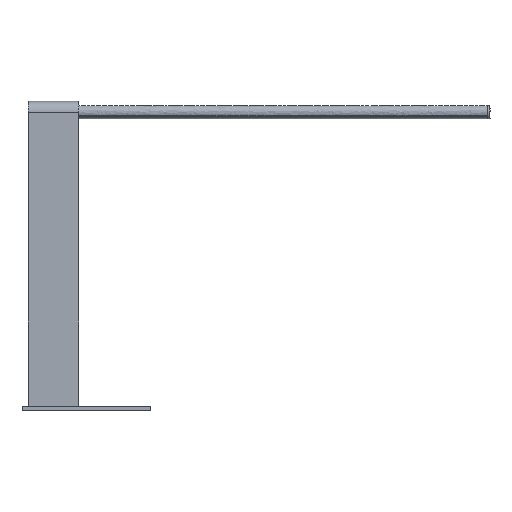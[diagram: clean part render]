
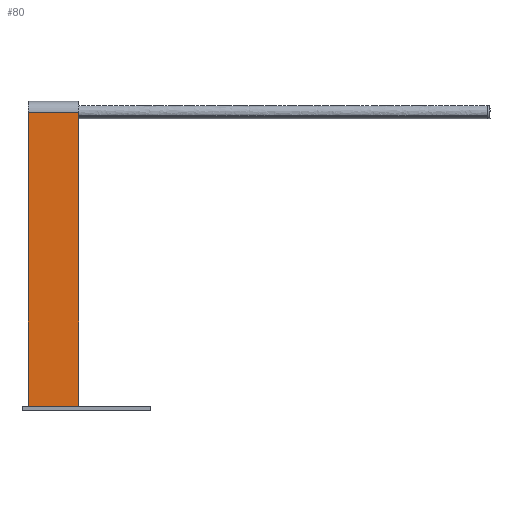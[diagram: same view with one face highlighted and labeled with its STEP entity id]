
A CAD part, front view. The second image highlights one B-rep face of the part: STEP entity #80.
In plain terms, the highlighted planar face has unit normal (0, -1, 0).
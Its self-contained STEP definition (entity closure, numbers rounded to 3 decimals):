
#14=(
BOUNDED_CURVE()
B_SPLINE_CURVE(1,(#593,#594),.UNSPECIFIED.,.F.,.F.)
B_SPLINE_CURVE_WITH_KNOTS((2,2),(0.,70.),.UNSPECIFIED.)
CURVE()
GEOMETRIC_REPRESENTATION_ITEM()
RATIONAL_B_SPLINE_CURVE((1.,1.))
REPRESENTATION_ITEM('')
);
#17=(
BOUNDED_CURVE()
B_SPLINE_CURVE(2,(#606,#607,#608),.UNSPECIFIED.,.F.,.F.)
B_SPLINE_CURVE_WITH_KNOTS((3,3),(47.36,458.106),
 .UNSPECIFIED.)
CURVE()
GEOMETRIC_REPRESENTATION_ITEM()
RATIONAL_B_SPLINE_CURVE((1.,1.,1.))
REPRESENTATION_ITEM('')
);
#18=(
BOUNDED_CURVE()
B_SPLINE_CURVE(1,(#609,#610),.UNSPECIFIED.,.F.,.F.)
B_SPLINE_CURVE_WITH_KNOTS((2,2),(0.,70.),.UNSPECIFIED.)
CURVE()
GEOMETRIC_REPRESENTATION_ITEM()
RATIONAL_B_SPLINE_CURVE((1.,1.))
REPRESENTATION_ITEM('')
);
#19=(
BOUNDED_CURVE()
B_SPLINE_CURVE(2,(#611,#612,#613),.UNSPECIFIED.,.F.,.F.)
B_SPLINE_CURVE_WITH_KNOTS((3,3),(47.36,458.106),
 .UNSPECIFIED.)
CURVE()
GEOMETRIC_REPRESENTATION_ITEM()
RATIONAL_B_SPLINE_CURVE((1.,1.,1.))
REPRESENTATION_ITEM('')
);
#80=ADVANCED_FACE('',(#108),#373,.T.);
#108=FACE_OUTER_BOUND('',#136,.T.);
#136=EDGE_LOOP('',(#185,#186,#187,#188));
#185=ORIENTED_EDGE('',*,*,#281,.T.);
#186=ORIENTED_EDGE('',*,*,#282,.T.);
#187=ORIENTED_EDGE('',*,*,#283,.F.);
#188=ORIENTED_EDGE('',*,*,#278,.F.);
#278=EDGE_CURVE('',#340,#341,#14,.T.);
#281=EDGE_CURVE('',#340,#343,#17,.T.);
#282=EDGE_CURVE('',#343,#344,#18,.T.);
#283=EDGE_CURVE('',#341,#344,#19,.T.);
#340=VERTEX_POINT('',#577);
#341=VERTEX_POINT('',#578);
#343=VERTEX_POINT('',#580);
#344=VERTEX_POINT('',#581);
#373=PLANE('',#481);
#481=AXIS2_PLACEMENT_3D('',#571,#510,$);
#510=DIRECTION('',(0.,-1.,0.));
#571=CARTESIAN_POINT('',(-4296.969,1030.892,410.746));
#577=CARTESIAN_POINT('',(-4296.969,1030.892,410.746));
#578=CARTESIAN_POINT('',(-4226.969,1030.892,410.746));
#580=CARTESIAN_POINT('',(-4296.969,1030.892,0.));
#581=CARTESIAN_POINT('',(-4226.969,1030.892,0.));
#593=CARTESIAN_POINT('',(-4296.969,1030.892,410.746));
#594=CARTESIAN_POINT('',(-4226.969,1030.892,410.746));
#606=CARTESIAN_POINT('',(-4296.969,1030.892,410.746));
#607=CARTESIAN_POINT('',(-4296.969,1030.892,205.373));
#608=CARTESIAN_POINT('',(-4296.969,1030.892,0.));
#609=CARTESIAN_POINT('',(-4296.969,1030.892,0.));
#610=CARTESIAN_POINT('',(-4226.969,1030.892,0.));
#611=CARTESIAN_POINT('',(-4226.969,1030.892,410.746));
#612=CARTESIAN_POINT('',(-4226.969,1030.892,205.373));
#613=CARTESIAN_POINT('',(-4226.969,1030.892,0.));
